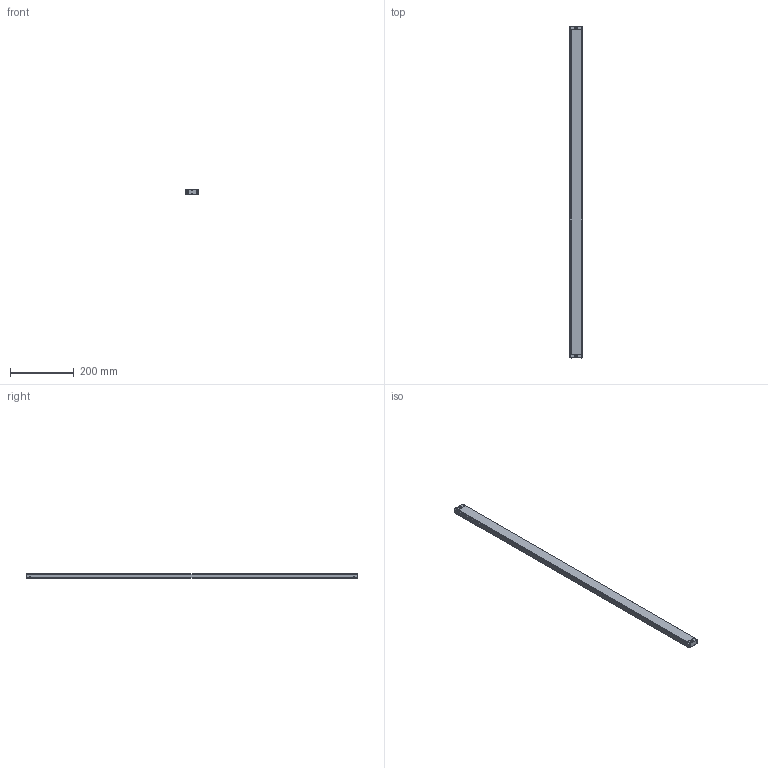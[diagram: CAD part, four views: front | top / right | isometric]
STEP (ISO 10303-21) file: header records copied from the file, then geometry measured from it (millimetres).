
FILE_DESCRIPTION((''),'2;1');
FILE_NAME('EB15--3610_ASM','2021-07-22T11:30:35',('18720616900'),(''),'CREO PARAMETRIC BY PTC INC, 2019010','CREO PARAMETRIC BY PTC INC, 2019010','');
FILE_SCHEMA(('CONFIG_CONTROL_DESIGN'));
Length unit declared in the file: millimetre
Products named in the file (6): EB15-00; EB15-000; EB15-0003; EB15-0004; ST-3-12; EB15--3610_ASM
Assembly tree (12 placements, depth 2):
  EB15--3610_ASM
    EB15-00
    EB15-000
    EB15-0003
    EB15-0004
    ST-3-12  x8
Bounding box: 39.15 x 1045 x 15.8 mm (x, y, z)
Volume: 628112.8 mm3; surface area: 152108.9 mm2
Topology: 12 solids, 12 shells, 827 faces, 2188 edges, 1368 vertices
Faces by surface type: plane 242, bspline 188, cone 176, cylinder 165, torus 40, sphere 16
Entity records: 16044 total; most frequent: CARTESIAN_POINT 7660, ORIENTED_EDGE 1804, DIRECTION 1603, EDGE_CURVE 902, AXIS2_PLACEMENT_3D 577, VERTEX_POINT 563, VECTOR 449, LINE 449
